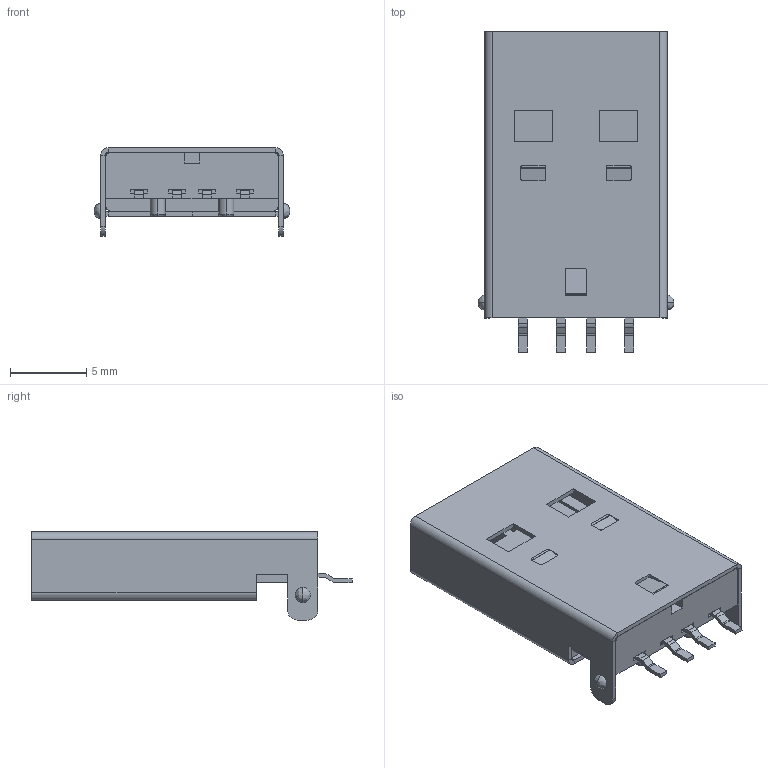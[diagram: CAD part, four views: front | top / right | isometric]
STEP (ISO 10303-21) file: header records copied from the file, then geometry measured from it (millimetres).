
FILE_DESCRIPTION((''),'2;1');
FILE_NAME('5075ARP-04-SM1A-WH_ASM','2020-12-18T15:57:59',('Jamie'),(''),'CREO PARAMETRIC BY PTC INC, 2018050','CREO PARAMETRIC BY PTC INC, 2018050','');
FILE_SCHEMA(('CONFIG_CONTROL_DESIGN'));
Length unit declared in the file: millimetre
Products named in the file (4): PRT0056; 801-5075ARP-04-SM1A; 802-5075ARP-04-SM1A; 5075ARP-04-SM1A-WH_ASM
Assembly tree (6 placements, depth 2):
  5075ARP-04-SM1A-WH_ASM
    PRT0056
    801-5075ARP-04-SM1A
    802-5075ARP-04-SM1A  x4
Bounding box: 12.86 x 21.05 x 5.8 mm (x, y, z)
Volume: 677.1 mm3; surface area: 1998.3 mm2
Topology: 6 solids, 6 shells, 365 faces, 931 edges, 592 vertices
Faces by surface type: plane 258, cylinder 71, extrusion 28, bspline 4, torus 4
Entity records: 10057 total; most frequent: CARTESIAN_POINT 2284, ORIENTED_EDGE 1602, DIRECTION 1497, EDGE_CURVE 801, VECTOR 639, LINE 611, VERTEX_POINT 508, AXIS2_PLACEMENT_3D 429
